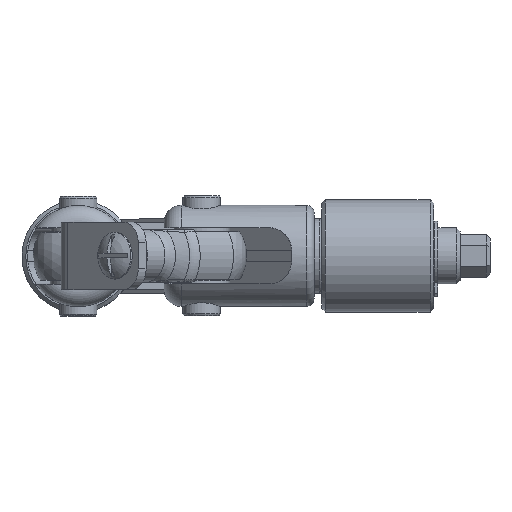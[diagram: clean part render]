
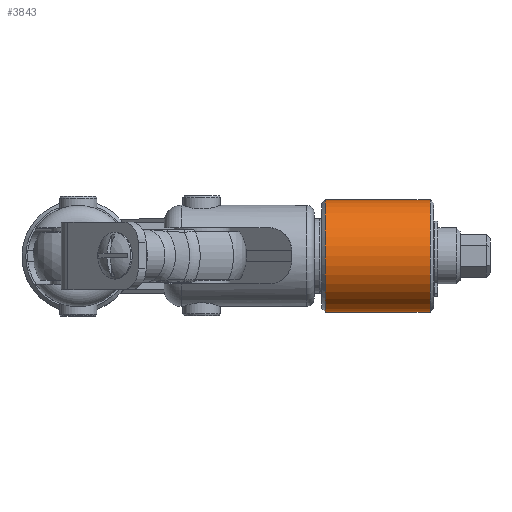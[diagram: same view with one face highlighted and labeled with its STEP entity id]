
A CAD part, top view. The second image highlights one B-rep face of the part: STEP entity #3843.
In plain terms, the highlighted cylindrical face has radius 15 mm (diameter 30 mm), a full revolution.
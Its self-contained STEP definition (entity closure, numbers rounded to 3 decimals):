
#414=CYLINDRICAL_SURFACE('',#4295,15.);
#495=FACE_OUTER_BOUND('',#739,.T.);
#739=EDGE_LOOP('',(#2724,#2725,#2726,#2727));
#1030=LINE('',#6086,#1312);
#1312=VECTOR('',#4806,15.);
#1593=CIRCLE('',#4293,15.);
#1595=CIRCLE('',#4296,15.);
#1813=VERTEX_POINT('',#6078);
#1815=VERTEX_POINT('',#6084);
#2168=EDGE_CURVE('',#1813,#1813,#1593,.T.);
#2171=EDGE_CURVE('',#1815,#1815,#1595,.T.);
#2172=EDGE_CURVE('',#1815,#1813,#1030,.T.);
#2724=ORIENTED_EDGE('',*,*,#2171,.F.);
#2725=ORIENTED_EDGE('',*,*,#2172,.T.);
#2726=ORIENTED_EDGE('',*,*,#2168,.F.);
#2727=ORIENTED_EDGE('',*,*,#2172,.F.);
#3843=ADVANCED_FACE('',(#495),#414,.T.);
#4293=AXIS2_PLACEMENT_3D('',#6079,#4797,#4798);
#4295=AXIS2_PLACEMENT_3D('',#6083,#4802,#4803);
#4296=AXIS2_PLACEMENT_3D('',#6085,#4804,#4805);
#4797=DIRECTION('center_axis',(0.,0.,-1.));
#4798=DIRECTION('ref_axis',(1.,0.,0.));
#4802=DIRECTION('center_axis',(0.,0.,1.));
#4803=DIRECTION('ref_axis',(1.,0.,0.));
#4804=DIRECTION('center_axis',(0.,0.,1.));
#4805=DIRECTION('ref_axis',(1.,0.,0.));
#4806=DIRECTION('',(0.,0.,-1.));
#6078=CARTESIAN_POINT('',(-15.,0.,1.));
#6079=CARTESIAN_POINT('Origin',(0.,0.,1.));
#6083=CARTESIAN_POINT('Origin',(0.,0.,0.));
#6084=CARTESIAN_POINT('',(-15.,0.,29.));
#6085=CARTESIAN_POINT('Origin',(0.,0.,29.));
#6086=CARTESIAN_POINT('',(-15.,0.,0.));
